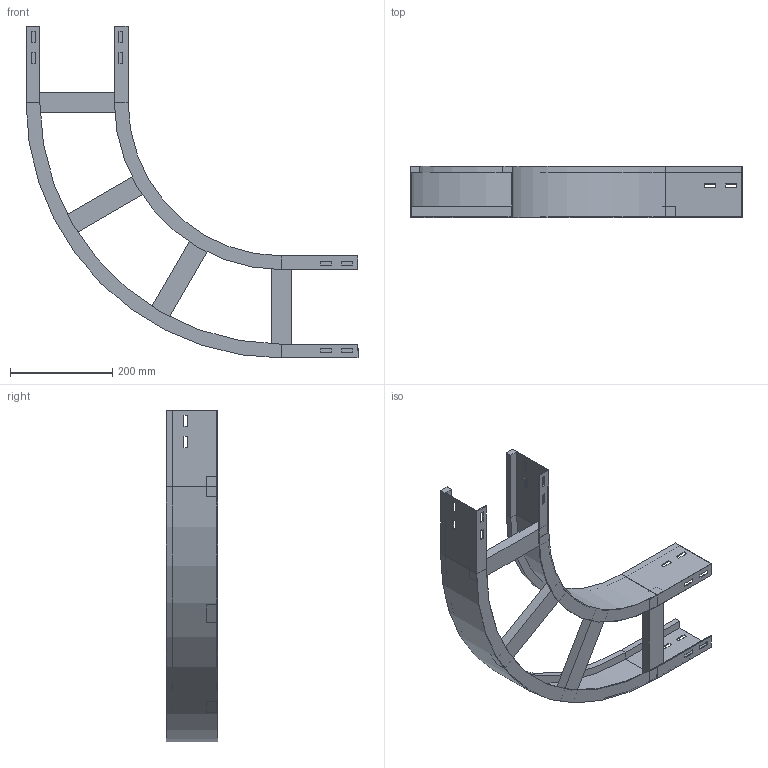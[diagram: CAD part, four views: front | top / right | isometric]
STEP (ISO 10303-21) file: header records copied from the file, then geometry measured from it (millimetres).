
FILE_DESCRIPTION (( 'STEP AP214' ), '1' );
FILE_NAME ('A2_10B3D200.step', '2025-02-21T15:22:48', ( '' ), ( '' ), 'SwSTEP 2.0', 'SolidWorks 2023', '' );
FILE_SCHEMA (( 'AUTOMOTIVE_DESIGN' ));
Length unit declared in the file: millimetre
Products named in the file (4): TRAVERSINO_200; A2_LONGH.ESTERNO 90°_H100_R300+200; A2_LONGH.INTERNO 90°_H100_R300; A2_10B3D200
Assembly tree (6 placements, depth 2):
  A2_10B3D200
    A2_LONGH.INTERNO 90°_H100_R300
    A2_LONGH.ESTERNO 90°_H100_R300+200
    TRAVERSINO_200  x4
Bounding box: 650 x 100 x 650 mm (x, y, z)
Volume: 1450745.6 mm3; surface area: 631038.2 mm2
Topology: 6 solids, 6 shells, 140 faces, 352 edges, 224 vertices
Faces by surface type: plane 132, cylinder 8
Entity records: 3829 total; most frequent: CARTESIAN_POINT 647, ORIENTED_EDGE 632, DIRECTION 594, EDGE_CURVE 316, LINE 300, VECTOR 300, VERTEX_POINT 200, EDGE_LOOP 154
